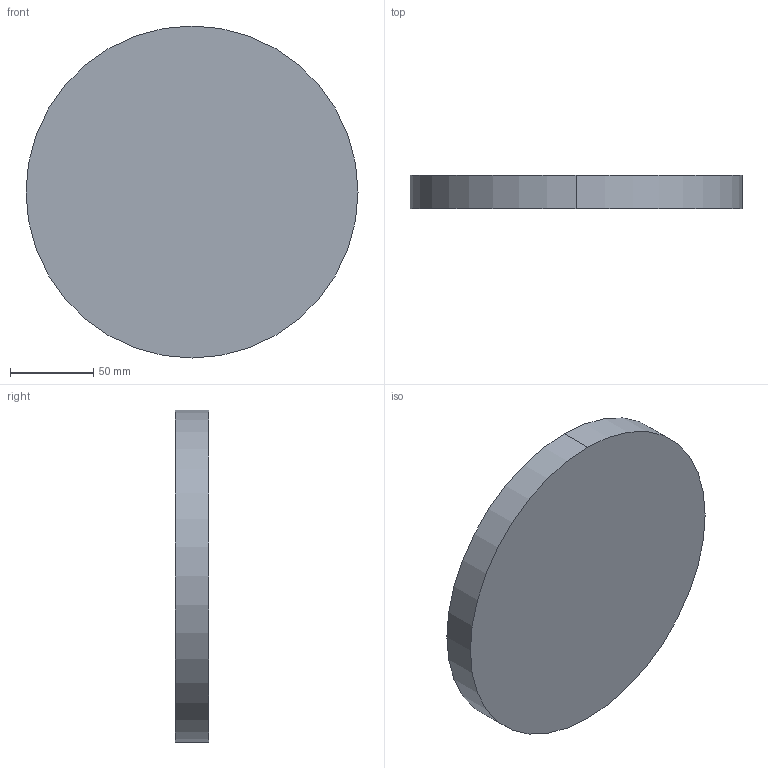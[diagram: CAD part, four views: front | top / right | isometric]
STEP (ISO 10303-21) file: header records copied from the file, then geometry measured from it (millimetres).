
FILE_DESCRIPTION (( 'STEP AP214' ), '1' );
FILE_NAME ('IMC-EC2-200x20.STEP', '2023-01-05T10:35:16', ( '' ), ( '' ), 'SwSTEP 2.0', 'SolidWorks 2019', '' );
FILE_SCHEMA (( 'AUTOMOTIVE_DESIGN' ));
Length unit declared in the file: millimetre
Products named in the file (1): IMC-EC2-200x20
Bounding box: 200 x 20 x 200 mm (x, y, z)
Volume: 628318.5 mm3; surface area: 75398.2 mm2
Topology: 1 solids, 1 shells, 4 faces, 6 edges, 4 vertices
Faces by surface type: cylinder 2, plane 2
Entity records: 128 total; most frequent: DIRECTION 20, CARTESIAN_POINT 15, ORIENTED_EDGE 12, AXIS2_PLACEMENT_3D 9, EDGE_CURVE 6, EDGE_LOOP 4, CIRCLE 4, FACE_OUTER_BOUND 4
